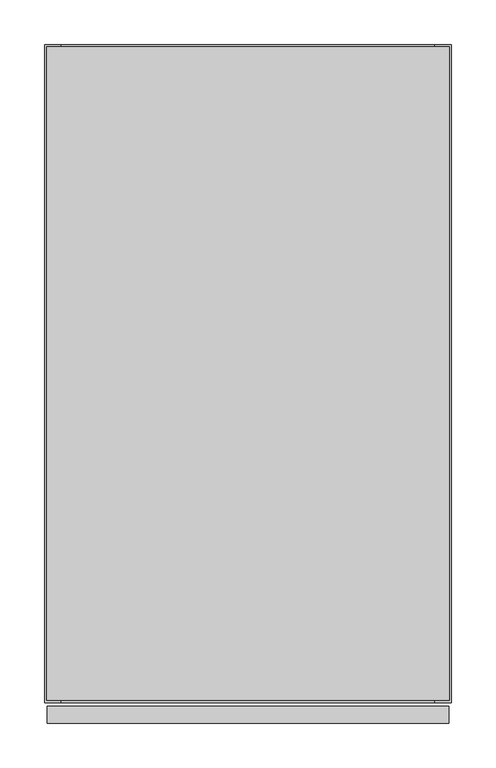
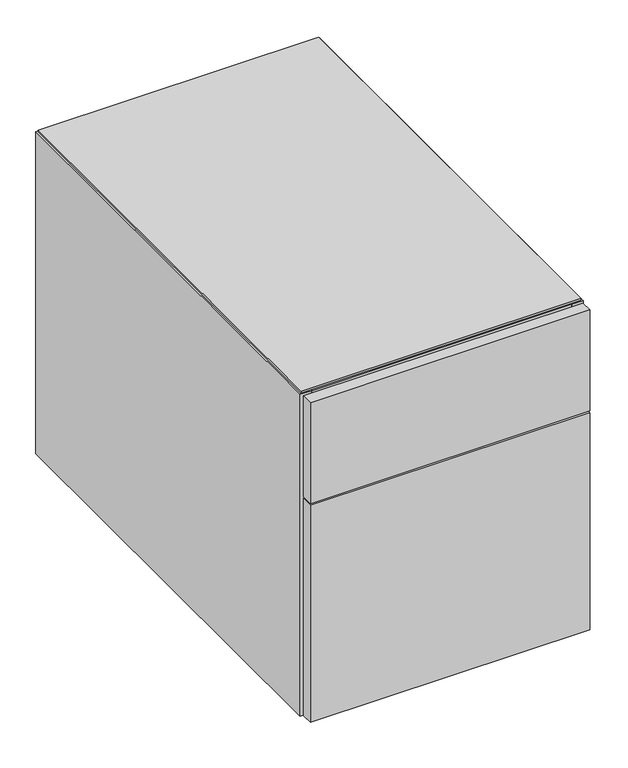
"""IFC4 building model written with IfcOpenShell, lengths in millimetres: furniture geometry, Geiger_GeigerOneCasegoods_LowStorage1Box1File : Vertical Veneer 18Wx30Dx21.75H."""

from ifc_helpers import new_model, si_unit, point, frame, origin, place, context, project, spatial, polyline, circle_curve, ellipse_curve, trimmed, outline, extrude, source, transform, mapped, element, save
from ifc_brep_helpers import plane_surface, cylinder_surface, revolved_surface, advanced_brep


def furniture_e8135a38(model_context):
    return source(origin(), model_context, "Body", "SolidModel", [
        extrude(outline(polyline([(19.0, -19.5), (438.2, -19.5), (438.2, -738.8), (19.0, -738.8), (19.0, -19.5)])), frame((0.0, 0.0, 73.2), z_axis=(0.0, 0.0, 1.0), x_axis=(1.0, 0.0, 0.0)), (0.0, 0.0, 1.0), 19.5072),
        extrude(outline(polyline([(3.0, -742.8), (454.2, -742.8), (454.2, -762.0), (3.0, -762.0), (3.0, -742.8)])), frame((0.0, 0.0, 15.7), z_axis=(0.0, 0.0, 1.0), x_axis=(1.0, 0.0, 0.0)), (0.0, 0.0, 1.0), 370.0),
        extrude(outline(polyline([(3.0, -742.8), (454.2, -742.8), (454.2, -762.0), (3.0, -762.0), (3.0, -742.8)])), frame((0.0, 0.0, 388.7), z_axis=(0.0, 0.0, 1.0), x_axis=(1.0, 0.0, 0.0)), (0.0, 0.0, 1.0), 172.2),
        extrude(outline(polyline([(19.0, -19.5), (438.2, -19.5), (438.2, -719.3), (19.0, -719.3), (19.0, -19.5)])), frame((0.0, 0.0, 12.7), z_axis=(0.0, 0.0, 1.0), x_axis=(1.0, 0.0, 0.0)), (0.0, 0.0, 1.0), 19.5),
        extrude(outline(polyline([(454.66, -2.54), (454.66, -736.26), (2.54, -736.26), (2.54, -2.54), (454.66, -2.54)])), frame((0.0, 0.0, 561.7), z_axis=(0.0, 0.0, 1.0), x_axis=(1.0, 0.0, 0.0)), (0.0, 0.0, 1.0), 3.2766),
        extrude(outline(polyline([(19.0, -95.7), (438.2, -95.7), (438.2, -738.8), (19.0, -738.8), (19.0, -95.7)])), frame((0.0, 0.0, 542.2), z_axis=(0.0, 0.0, 1.0), x_axis=(1.0, 0.0, 0.0)), (0.0, 0.0, 1.0), 19.5),
        extrude(outline(polyline([(438.2, -19.5), (19.0, -19.5), (19.0, 0.0), (438.2, 0.0), (438.2, -19.5)])), frame((0.0, 0.0, 12.7), z_axis=(0.0, 0.0, 1.0), x_axis=(1.0, 0.0, 0.0)), (0.0, 0.0, 1.0), 549.0),
        extrude(outline(polyline([(19.0, -719.3), (438.2, -719.3), (438.2, -738.8), (19.0, -738.8), (19.0, -719.3)])), frame((0.0, 0.0, 12.7), z_axis=(0.0, 0.0, 1.0), x_axis=(1.0, 0.0, 0.0)), (0.0, 0.0, 1.0), 60.5),
        extrude(outline(polyline([(19.0, -738.8), (0.0, -738.8), (0.0, -0.5), (19.0, -0.5), (19.0, -738.8)])), frame((0.0, 0.0, 12.7), z_axis=(0.0, 0.0, 1.0), x_axis=(1.0, 0.0, 0.0)), (0.0, 0.0, 1.0), 549.0),
        extrude(outline(polyline([(457.2, -738.8), (438.2, -738.8), (438.2, -0.5), (457.2, -0.5), (457.2, -738.8)])), frame((0.0, 0.0, 12.7), z_axis=(0.0, 0.0, 1.0), x_axis=(1.0, 0.0, 0.0)), (0.0, 0.0, 1.0), 549.0),
        advanced_brep(
        [(94.0575663, -681.3165105, 0.0), (71.9424337, -681.3165105, 0.0), (83.0, -681.3165105, 0.0), (94.0575663, -681.3165105, 9.5), (71.9424337, -681.3165105, 9.5), (87.066455, -681.3165105, 9.5), (78.933545, -681.3165105, 9.5), (87.066455, -681.3165105, 12.7), (78.933545, -681.3165105, 12.7), (83.0, -681.3165105, 12.7)],
        [
            (0, 1, circle_curve(frame((83.0, -681.3165105, 0.0), z_axis=(0.0, 0.0, -1.0), x_axis=(-1.0, 0.0, 0.0)), 11.0575663)),
            (1, 2),
            (2, 0),
            (1, 0, circle_curve(frame((83.0, -681.3165105, 0.0), z_axis=(0.0, 0.0, -1.0), x_axis=(-1.0, 0.0, 0.0)), 11.0575663)),
            (0, 3, circle_curve(frame((94.0575663, -681.3165105, 4.75), z_axis=(0.0, -1.0, 0.0), x_axis=(1.0, 0.0, 0.0)), 4.75)),
            (3, 4, circle_curve(frame((83.0, -681.3165105, 9.5), z_axis=(0.0, 0.0, -1.0), x_axis=(-1.0, 0.0, 0.0)), 11.0575663)),
            (4, 1, circle_curve(frame((71.9424337, -681.3165105, 4.75), z_axis=(0.0, -1.0, 0.0), x_axis=(-1.0, 0.0, 0.0)), 4.75)),
            (4, 3, circle_curve(frame((83.0, -681.3165105, 9.5), z_axis=(0.0, 0.0, -1.0), x_axis=(-1.0, 0.0, 0.0)), 11.0575663)),
            (3, 5),
            (5, 6, circle_curve(frame((83.0, -681.3165105, 9.5), z_axis=(0.0, 0.0, -1.0), x_axis=(-1.0, 0.0, 0.0)), 4.066455)),
            (6, 4),
            (6, 5, circle_curve(frame((83.0, -681.3165105, 9.5), z_axis=(0.0, 0.0, -1.0), x_axis=(-1.0, 0.0, 0.0)), 4.066455)),
            (5, 7),
            (7, 8, circle_curve(frame((83.0, -681.3165105, 12.7), z_axis=(0.0, 0.0, -1.0), x_axis=(-1.0, 0.0, 0.0)), 4.066455)),
            (8, 6),
            (8, 7, circle_curve(frame((83.0, -681.3165105, 12.7), z_axis=(0.0, 0.0, -1.0), x_axis=(-1.0, 0.0, 0.0)), 4.066455)),
            (7, 9),
            (9, 8),
        ],
        [
            plane_surface(frame((83.0, -681.3165105, 0.0), z_axis=(0.0, 0.0, -1.0), x_axis=(-1.0, 0.0, 0.0))),
            revolved_surface(trimmed(ellipse_curve(frame((71.9424337, -681.3165105, 4.75), z_axis=(0.0, 1.0, 0.0), x_axis=(-1.0, 0.0, 0.0)), 4.75, 4.75), [point((71.9424337, -681.3165105, 0.0))], [point((71.9424337, -681.3165105, 9.5))], True, "CARTESIAN"), (83.0, -681.3165105, 0.0), (0.0, 0.0, 1.0)),
            plane_surface(frame((83.0, -681.3165105, 9.5), z_axis=(0.0, 0.0, 1.0), x_axis=(-1.0, 0.0, 0.0))),
            cylinder_surface(frame((83.0, -681.3165105, 0.0), z_axis=(0.0, 0.0, 1.0), x_axis=(-1.0, 0.0, 0.0)), 4.066455),
            plane_surface(frame((83.0, -681.3165105, 12.7), z_axis=(0.0, 0.0, 1.0), x_axis=(-1.0, 0.0, 0.0))),
        ],
        [
            (0, [[1, 2, 3]]),
            (0, [[-2, 4, -3]]),
            (1, [[-1, 5, 6, 7]]),
            (1, [[-4, -7, 8, -5]]),
            (2, [[-6, 9, 10, 11]]),
            (2, [[-8, -11, 12, -9]]),
            (3, [[-10, 13, 14, 15]]),
            (3, [[-12, -15, 16, -13]]),
            (4, [[-14, 17, 18]]),
            (4, [[-16, -18, -17]]),
        ],
    ),
        advanced_brep(
        [(94.0575663, -127.0, 0.0), (71.9424337, -127.0, 0.0), (83.0, -127.0, 0.0), (94.0575663, -127.0, 9.5), (71.9424337, -127.0, 9.5), (87.066455, -127.0, 9.5), (78.933545, -127.0, 9.5), (87.066455, -127.0, 12.7), (78.933545, -127.0, 12.7), (83.0, -127.0, 12.7)],
        [
            (0, 1, circle_curve(frame((83.0, -127.0, 0.0), z_axis=(0.0, 0.0, -1.0), x_axis=(-1.0, 0.0, 0.0)), 11.0575663)),
            (1, 2),
            (2, 0),
            (1, 0, circle_curve(frame((83.0, -127.0, 0.0), z_axis=(0.0, 0.0, -1.0), x_axis=(-1.0, 0.0, 0.0)), 11.0575663)),
            (0, 3, circle_curve(frame((94.0575663, -127.0, 4.75), z_axis=(0.0, -1.0, 0.0), x_axis=(1.0, 0.0, 0.0)), 4.75)),
            (3, 4, circle_curve(frame((83.0, -127.0, 9.5), z_axis=(0.0, 0.0, -1.0), x_axis=(-1.0, 0.0, 0.0)), 11.0575663)),
            (4, 1, circle_curve(frame((71.9424337, -127.0, 4.75), z_axis=(0.0, -1.0, 0.0), x_axis=(-1.0, 0.0, 0.0)), 4.75)),
            (4, 3, circle_curve(frame((83.0, -127.0, 9.5), z_axis=(0.0, 0.0, -1.0), x_axis=(-1.0, 0.0, 0.0)), 11.0575663)),
            (3, 5),
            (5, 6, circle_curve(frame((83.0, -127.0, 9.5), z_axis=(0.0, 0.0, -1.0), x_axis=(-1.0, 0.0, 0.0)), 4.066455)),
            (6, 4),
            (6, 5, circle_curve(frame((83.0, -127.0, 9.5), z_axis=(0.0, 0.0, -1.0), x_axis=(-1.0, 0.0, 0.0)), 4.066455)),
            (5, 7),
            (7, 8, circle_curve(frame((83.0, -127.0, 12.7), z_axis=(0.0, 0.0, -1.0), x_axis=(-1.0, 0.0, 0.0)), 4.066455)),
            (8, 6),
            (8, 7, circle_curve(frame((83.0, -127.0, 12.7), z_axis=(0.0, 0.0, -1.0), x_axis=(-1.0, 0.0, 0.0)), 4.066455)),
            (7, 9),
            (9, 8),
        ],
        [
            plane_surface(frame((83.0, -127.0, 0.0), z_axis=(0.0, 0.0, -1.0), x_axis=(-1.0, 0.0, 0.0))),
            revolved_surface(trimmed(ellipse_curve(frame((71.9424337, -127.0, 4.75), z_axis=(0.0, 1.0, 0.0), x_axis=(-1.0, 0.0, 0.0)), 4.75, 4.75), [point((71.9424337, -127.0, 0.0))], [point((71.9424337, -127.0, 9.5))], True, "CARTESIAN"), (83.0, -127.0, 0.0), (0.0, 0.0, 1.0)),
            plane_surface(frame((83.0, -127.0, 9.5), z_axis=(0.0, 0.0, 1.0), x_axis=(-1.0, 0.0, 0.0))),
            cylinder_surface(frame((83.0, -127.0, 0.0), z_axis=(0.0, 0.0, 1.0), x_axis=(-1.0, 0.0, 0.0)), 4.066455),
            plane_surface(frame((83.0, -127.0, 12.7), z_axis=(0.0, 0.0, 1.0), x_axis=(-1.0, 0.0, 0.0))),
        ],
        [
            (0, [[1, 2, 3]]),
            (0, [[-2, 4, -3]]),
            (1, [[-1, 5, 6, 7]]),
            (1, [[-4, -7, 8, -5]]),
            (2, [[-6, 9, 10, 11]]),
            (2, [[-8, -11, 12, -9]]),
            (3, [[-10, 13, 14, 15]]),
            (3, [[-12, -15, 16, -13]]),
            (4, [[-14, 17, 18]]),
            (4, [[-16, -18, -17]]),
        ],
    ),
        advanced_brep(
        [(374.2, -681.3165105, 0.0), (385.2575663, -681.3165105, 0.0), (363.1424337, -681.3165105, 0.0), (385.2575663, -681.3165105, 9.5), (363.1424337, -681.3165105, 9.5), (378.266455, -681.3165105, 9.5), (370.133545, -681.3165105, 9.5), (378.266455, -681.3165105, 12.7), (370.133545, -681.3165105, 12.7), (374.2, -681.3165105, 12.7)],
        [
            (0, 1),
            (1, 2, circle_curve(frame((374.2, -681.3165105, 0.0), z_axis=(0.0, 0.0, -1.0), x_axis=(1.0, 0.0, 0.0)), 11.0575663)),
            (2, 0),
            (2, 1, circle_curve(frame((374.2, -681.3165105, 0.0), z_axis=(0.0, 0.0, -1.0), x_axis=(1.0, 0.0, 0.0)), 11.0575663)),
            (1, 3, circle_curve(frame((385.2575663, -681.3165105, 4.75), z_axis=(0.0, -1.0, 0.0), x_axis=(-1.0, 0.0, 0.0)), 4.75)),
            (3, 4, circle_curve(frame((374.2, -681.3165105, 9.5), z_axis=(0.0, 0.0, -1.0), x_axis=(1.0, 0.0, 0.0)), 11.0575663)),
            (4, 2, circle_curve(frame((363.1424337, -681.3165105, 4.75), z_axis=(0.0, -1.0, 0.0), x_axis=(1.0, 0.0, 0.0)), 4.75)),
            (4, 3, circle_curve(frame((374.2, -681.3165105, 9.5), z_axis=(0.0, 0.0, -1.0), x_axis=(1.0, 0.0, 0.0)), 11.0575663)),
            (3, 5),
            (5, 6, circle_curve(frame((374.2, -681.3165105, 9.5), z_axis=(0.0, 0.0, -1.0), x_axis=(1.0, 0.0, 0.0)), 4.066455)),
            (6, 4),
            (6, 5, circle_curve(frame((374.2, -681.3165105, 9.5), z_axis=(0.0, 0.0, -1.0), x_axis=(1.0, 0.0, 0.0)), 4.066455)),
            (5, 7),
            (7, 8, circle_curve(frame((374.2, -681.3165105, 12.7), z_axis=(0.0, 0.0, -1.0), x_axis=(1.0, 0.0, 0.0)), 4.066455)),
            (8, 6),
            (8, 7, circle_curve(frame((374.2, -681.3165105, 12.7), z_axis=(0.0, 0.0, -1.0), x_axis=(1.0, 0.0, 0.0)), 4.066455)),
            (7, 9),
            (9, 8),
        ],
        [
            plane_surface(frame((374.2, -681.3165105, 0.0), z_axis=(0.0, 0.0, -1.0), x_axis=(1.0, 0.0, 0.0))),
            revolved_surface(trimmed(ellipse_curve(frame((385.2575663, -681.3165105, 4.75), z_axis=(0.0, 1.0, 0.0), x_axis=(-1.0, 0.0, 0.0)), 4.75, 4.75), [point((385.2575663, -681.3165105, 9.5))], [point((385.2575663, -681.3165105, 0.0))], True, "CARTESIAN"), (374.2, -681.3165105, 0.0), (0.0, 0.0, -1.0)),
            plane_surface(frame((374.2, -681.3165105, 9.5), z_axis=(0.0, 0.0, 1.0), x_axis=(1.0, 0.0, 0.0))),
            cylinder_surface(frame((374.2, -681.3165105, 0.0), z_axis=(0.0, 0.0, -1.0), x_axis=(1.0, 0.0, 0.0)), 4.066455),
            plane_surface(frame((374.2, -681.3165105, 12.7), z_axis=(0.0, 0.0, 1.0), x_axis=(1.0, 0.0, 0.0))),
        ],
        [
            (0, [[1, 2, 3]]),
            (0, [[-1, -3, 4]]),
            (1, [[-2, 5, 6, 7]]),
            (1, [[-4, -7, 8, -5]]),
            (2, [[-6, 9, 10, 11]]),
            (2, [[-8, -11, 12, -9]]),
            (3, [[-10, 13, 14, 15]]),
            (3, [[-12, -15, 16, -13]]),
            (4, [[-14, 17, 18]]),
            (4, [[-16, -18, -17]]),
        ],
    ),
        advanced_brep(
        [(374.2, -127.0, 0.0), (385.2575663, -127.0, 0.0), (363.1424337, -127.0, 0.0), (385.2575663, -127.0, 9.5), (363.1424337, -127.0, 9.5), (378.266455, -127.0, 9.5), (370.133545, -127.0, 9.5), (378.266455, -127.0, 12.7), (370.133545, -127.0, 12.7), (374.2, -127.0, 12.7)],
        [
            (0, 1),
            (1, 2, circle_curve(frame((374.2, -127.0, 0.0), z_axis=(0.0, 0.0, -1.0), x_axis=(1.0, 0.0, 0.0)), 11.0575663)),
            (2, 0),
            (2, 1, circle_curve(frame((374.2, -127.0, 0.0), z_axis=(0.0, 0.0, -1.0), x_axis=(1.0, 0.0, 0.0)), 11.0575663)),
            (1, 3, circle_curve(frame((385.2575663, -127.0, 4.75), z_axis=(0.0, -1.0, 0.0), x_axis=(-1.0, 0.0, 0.0)), 4.75)),
            (3, 4, circle_curve(frame((374.2, -127.0, 9.5), z_axis=(0.0, 0.0, -1.0), x_axis=(1.0, 0.0, 0.0)), 11.0575663)),
            (4, 2, circle_curve(frame((363.1424337, -127.0, 4.75), z_axis=(0.0, -1.0, 0.0), x_axis=(1.0, 0.0, 0.0)), 4.75)),
            (4, 3, circle_curve(frame((374.2, -127.0, 9.5), z_axis=(0.0, 0.0, -1.0), x_axis=(1.0, 0.0, 0.0)), 11.0575663)),
            (3, 5),
            (5, 6, circle_curve(frame((374.2, -127.0, 9.5), z_axis=(0.0, 0.0, -1.0), x_axis=(1.0, 0.0, 0.0)), 4.066455)),
            (6, 4),
            (6, 5, circle_curve(frame((374.2, -127.0, 9.5), z_axis=(0.0, 0.0, -1.0), x_axis=(1.0, 0.0, 0.0)), 4.066455)),
            (5, 7),
            (7, 8, circle_curve(frame((374.2, -127.0, 12.7), z_axis=(0.0, 0.0, -1.0), x_axis=(1.0, 0.0, 0.0)), 4.066455)),
            (8, 6),
            (8, 7, circle_curve(frame((374.2, -127.0, 12.7), z_axis=(0.0, 0.0, -1.0), x_axis=(1.0, 0.0, 0.0)), 4.066455)),
            (7, 9),
            (9, 8),
        ],
        [
            plane_surface(frame((374.2, -127.0, 0.0), z_axis=(0.0, 0.0, -1.0), x_axis=(1.0, 0.0, 0.0))),
            revolved_surface(trimmed(ellipse_curve(frame((385.2575663, -127.0, 4.75), z_axis=(0.0, 1.0, 0.0), x_axis=(-1.0, 0.0, 0.0)), 4.75, 4.75), [point((385.2575663, -127.0, 9.5))], [point((385.2575663, -127.0, 0.0))], True, "CARTESIAN"), (374.2, -127.0, 0.0), (0.0, 0.0, -1.0)),
            plane_surface(frame((374.2, -127.0, 9.5), z_axis=(0.0, 0.0, 1.0), x_axis=(1.0, 0.0, 0.0))),
            cylinder_surface(frame((374.2, -127.0, 0.0), z_axis=(0.0, 0.0, -1.0), x_axis=(1.0, 0.0, 0.0)), 4.066455),
            plane_surface(frame((374.2, -127.0, 12.7), z_axis=(0.0, 0.0, 1.0), x_axis=(1.0, 0.0, 0.0))),
        ],
        [
            (0, [[1, 2, 3]]),
            (0, [[-1, -3, 4]]),
            (1, [[-2, 5, 6, 7]]),
            (1, [[-4, -7, 8, -5]]),
            (2, [[-6, 9, 10, 11]]),
            (2, [[-8, -11, 12, -9]]),
            (3, [[-10, 13, 14, 15]]),
            (3, [[-12, -15, 16, -13]]),
            (4, [[-14, 17, 18]]),
            (4, [[-16, -18, -17]]),
        ],
    ),
    ])


if __name__ == "__main__":
    model = new_model("IFC4")
    model_context = context("Model", 3, world=origin())
    ifc_project = project(units=[si_unit("LENGTHUNIT", "METRE", prefix="MILLI")], contexts=[model_context])
    site = spatial("IfcSite", under=ifc_project)
    building = spatial("IfcBuilding", under=site)
    placement = place(None, origin())
    furniture_shape = furniture_e8135a38(model_context)
    element("IfcFurniture", 1, ObjectType="Geiger_GeigerOneCasegoods_LowStorage1Box1File : Vertical Veneer 18Wx30Dx21.75H", at=placement, inside=building, context=model_context, shape_type="MappedRepresentation", body=[
        mapped(furniture_shape, transform((0.0, 0.0, 0.0), x_axis=(1.0, 0.0, 0.0), y_axis=(0.0, 1.0, 0.0), z_axis=(0.0, 0.0, 1.0))),
    ])
    save(model, "model.ifc")
